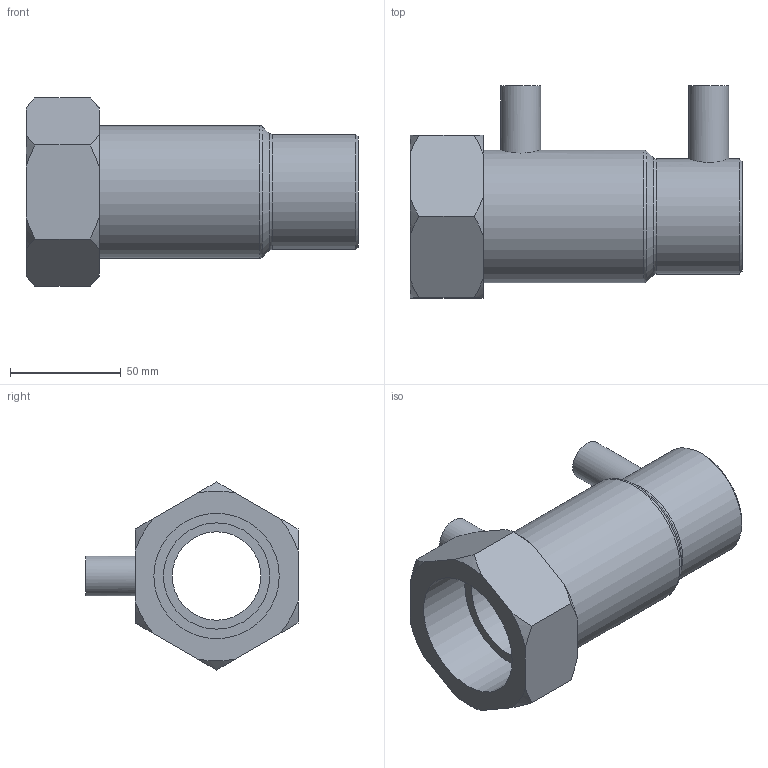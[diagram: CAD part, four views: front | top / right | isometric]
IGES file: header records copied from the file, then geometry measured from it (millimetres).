
Global section: file name: 493104040020.ipt; native system: Autodesk Inventor 2019; preprocessor: unknown; author: Lenora; date: 20210307.201123; units: millimetre
Bounding box: 150 x 95.8 x 84.98 mm (x, y, z)
Volume: 201809.7 mm3; surface area: 62620.8 mm2
Topology: 1 solids, 1 shells, 40 faces, 108 edges, 75 vertices
Faces by surface type: plane 15, cone 14, revolution 7, cylinder 4
Full cylindrical faces by diameter (mm): 18 x2, 52 x1, 60 x1
